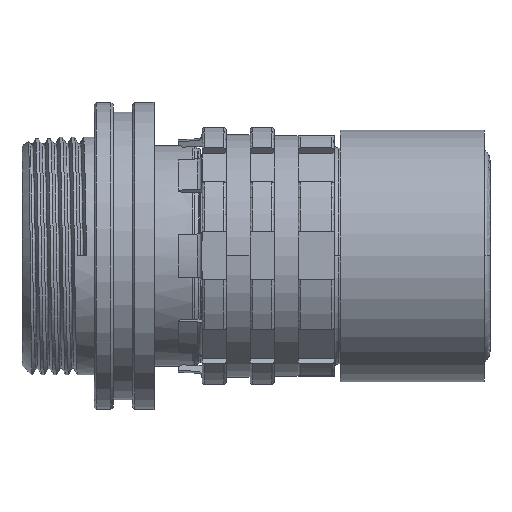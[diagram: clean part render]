
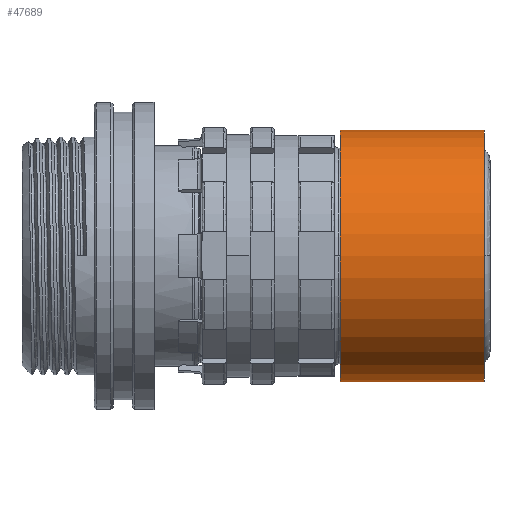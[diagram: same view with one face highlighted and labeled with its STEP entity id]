
A CAD part, top view. The second image highlights one B-rep face of the part: STEP entity #47689.
In plain terms, the highlighted cylindrical face has radius 5.25 mm (diameter 10.5 mm), a partial arc.
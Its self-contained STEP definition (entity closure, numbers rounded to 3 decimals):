
#47327=CARTESIAN_POINT('',(13.25,0.,0.));
#47328=DIRECTION('',(1.,0.,0.));
#47329=DIRECTION('',(0.,1.,0.));
#47330=AXIS2_PLACEMENT_3D('',#47327,#47328,#47329);
#47352=DIRECTION('',(-1.,0.,0.));
#47353=VECTOR('',#47352,6.);
#47354=CARTESIAN_POINT('',(19.25,5.25,0.));
#47355=LINE('',#47354,#47353);
#47356=DIRECTION('',(-1.,0.,0.));
#47357=VECTOR('',#47356,6.);
#47358=CARTESIAN_POINT('',(19.25,-5.25,0.));
#47359=LINE('',#47358,#47357);
#47360=CARTESIAN_POINT('',(19.25,0.,0.));
#47361=DIRECTION('',(-1.,0.,0.));
#47362=DIRECTION('',(0.,-1.,0.));
#47363=AXIS2_PLACEMENT_3D('',#47360,#47361,#47362);
#47422=CARTESIAN_POINT('',(19.25,-5.25,0.));
#47423=CARTESIAN_POINT('',(19.25,5.25,0.));
#47424=VERTEX_POINT('',#47422);
#47425=VERTEX_POINT('',#47423);
#47426=CARTESIAN_POINT('',(13.25,5.25,0.));
#47427=VERTEX_POINT('',#47426);
#47428=CARTESIAN_POINT('',(13.25,-5.25,0.));
#47429=VERTEX_POINT('',#47428);
#47677=CARTESIAN_POINT('',(12.95,0.,0.));
#47678=DIRECTION('',(1.,0.,0.));
#47679=DIRECTION('',(0.,-1.,0.));
#47680=AXIS2_PLACEMENT_3D('',#47677,#47678,#47679);
#47681=CYLINDRICAL_SURFACE('',#47680,5.25);
#47682=ORIENTED_EDGE('',*,*,#47660,.F.);
#47684=ORIENTED_EDGE('',*,*,#47683,.F.);
#47685=ORIENTED_EDGE('',*,*,#47663,.T.);
#47686=ORIENTED_EDGE('',*,*,#47637,.F.);
#47687=EDGE_LOOP('',(#47682,#47684,#47685,#47686));
#47688=FACE_OUTER_BOUND('',#47687,.F.);
#47331=CIRCLE('',#47330,5.25);
#47364=CIRCLE('',#47363,5.25);
#47637=EDGE_CURVE('',#47427,#47429,#47331,.T.);
#47660=EDGE_CURVE('',#47425,#47427,#47355,.T.);
#47663=EDGE_CURVE('',#47424,#47429,#47359,.T.);
#47683=EDGE_CURVE('',#47424,#47425,#47364,.T.);
#47689=ADVANCED_FACE('',(#47688),#47681,.T.);
